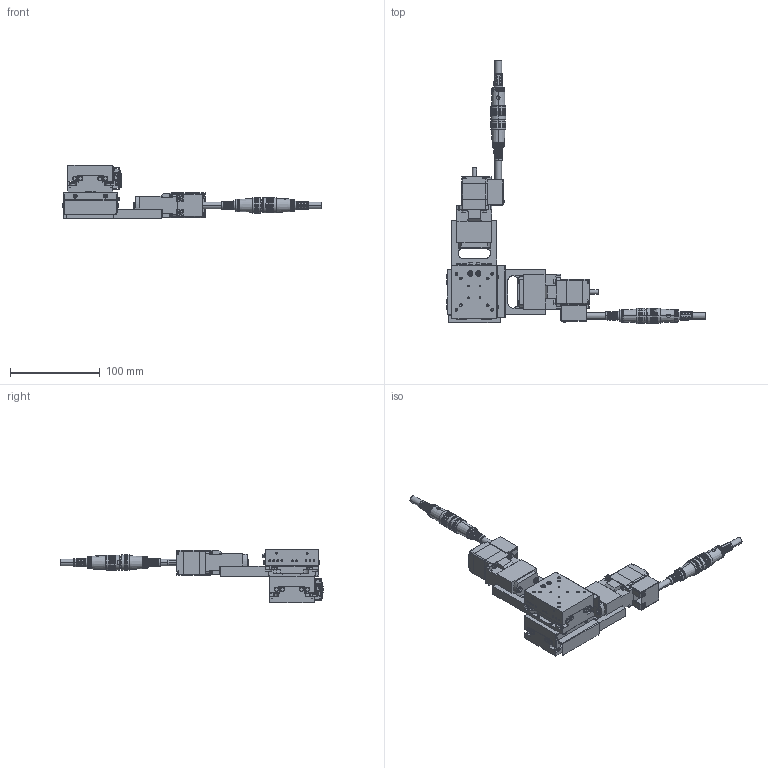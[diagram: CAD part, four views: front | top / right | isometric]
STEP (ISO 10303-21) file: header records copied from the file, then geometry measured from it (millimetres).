
FILE_DESCRIPTION (( 'STEP AP214' ), '1' );
FILE_NAME ('SYA0530-R01-RRR.STEP', '2021-05-20T08:00:26', ( '' ), ( '' ), 'SwSTEP 2.0', 'SolidWorks 2018', '' );
FILE_SCHEMA (( 'AUTOMOTIVE_DESIGN' ));
Length unit declared in the file: millimetre
Products named in the file (8): table; base-Part-1; second table; base; second table-Part-1; base-Part-2; SYA0530-R01-RRR; second table-Part-2
Assembly tree (7 placements, depth 3):
  SYA0530-R01-RRR
    base
      base-Part-1
      base-Part-2
    second table
      second table-Part-1
      second table-Part-2
    table
Bounding box: 289.6 x 293.65 x 60 mm (x, y, z)
Volume: 357891 mm3; surface area: 103783.7 mm2
Topology: 5 solids, 7 shells, 2782 faces, 6914 edges, 4310 vertices
Faces by surface type: plane 1474, cylinder 776, cone 404, torus 96, sphere 32
Entity records: 83588 total; most frequent: CARTESIAN_POINT 15874, DIRECTION 14794, ORIENTED_EDGE 13588, EDGE_CURVE 6794, AXIS2_PLACEMENT_3D 5386, VERTEX_POINT 4290, VECTOR 4022, LINE 4022
